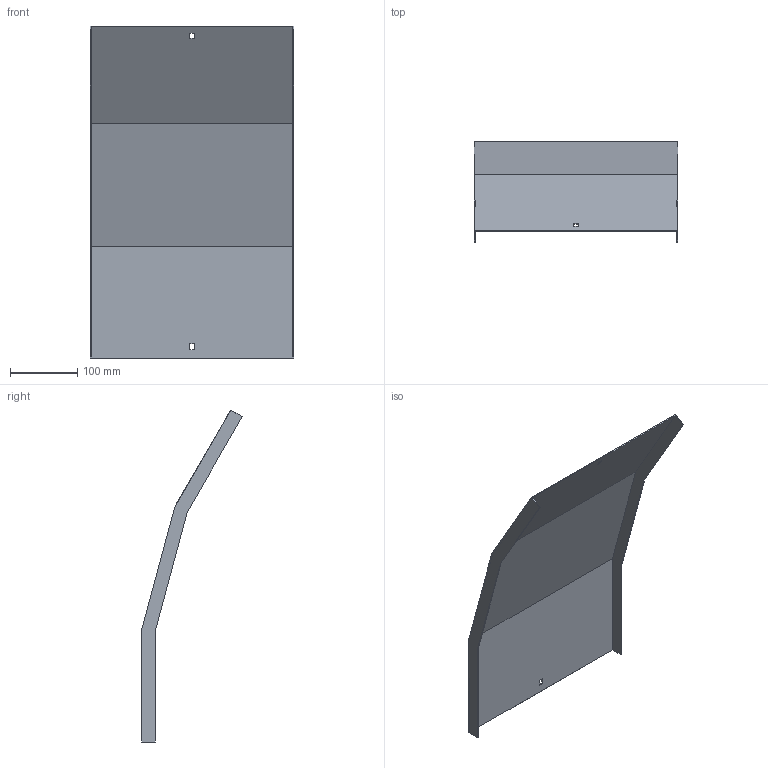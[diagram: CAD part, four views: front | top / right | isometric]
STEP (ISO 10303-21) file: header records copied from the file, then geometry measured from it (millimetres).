
FILE_DESCRIPTION (( 'STEP AP214' ), '1' );
FILE_NAME ('A2_35N3J300.step', '2025-02-21T10:31:16', ( '' ), ( '' ), 'SwSTEP 2.0', 'SolidWorks 2023', '' );
FILE_SCHEMA (( 'AUTOMOTIVE_DESIGN' ));
Length unit declared in the file: millimetre
Products named in the file (1): A2_35N3J300
Bounding box: 303 x 149.62 x 493.76 mm (x, y, z)
Volume: 265822.2 mm3; surface area: 357079.8 mm2
Topology: 1 solids, 1 shells, 26 faces, 72 edges, 48 vertices
Faces by surface type: plane 26
Entity records: 847 total; most frequent: CARTESIAN_POINT 147, ORIENTED_EDGE 144, DIRECTION 126, VECTOR 72, LINE 72, EDGE_CURVE 72, VERTEX_POINT 48, EDGE_LOOP 30
